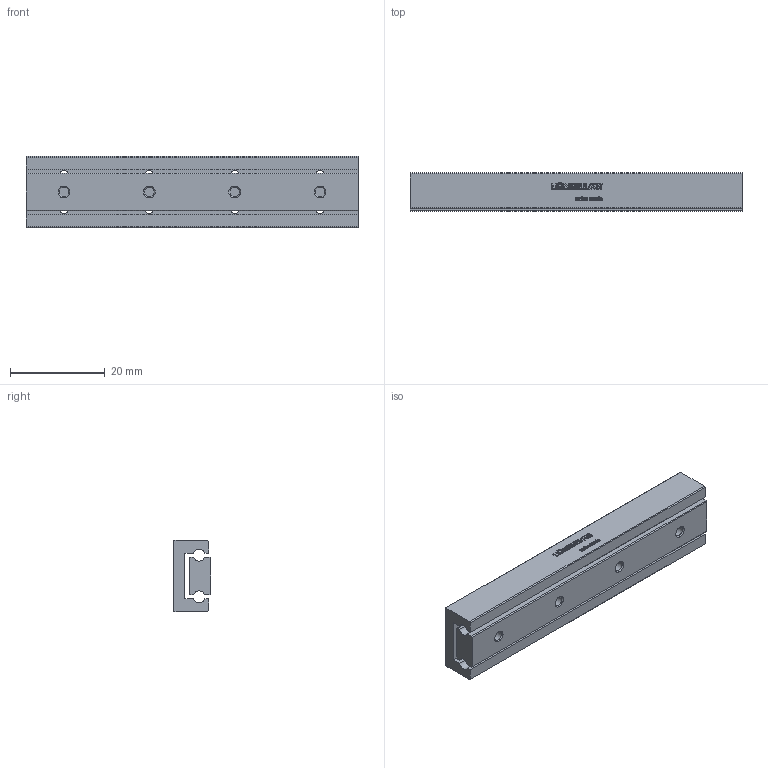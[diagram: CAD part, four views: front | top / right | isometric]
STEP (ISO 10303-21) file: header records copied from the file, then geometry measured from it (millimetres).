
FILE_DESCRIPTION(/* description */ ('STEP AP214'),/* implementation_level */ '2;1');
FILE_NAME(/* name */ 'NDN 2-70.60(0)',/* time_stamp */ '2025-04-16T17:13:02+02:00',/* author */ ('License CC BY-ND 4.0'),/* organization */ ('CADENAS'),/* preprocessor_version */ 'ST-DEVELOPER v19.3',/* originating_system */ 'PARTsolutions',/* authorisation */ ' ');
FILE_SCHEMA (('AUTOMOTIVE_DESIGN {1 0 10303 214 3 1 1}'));
Length unit declared in the file: millimetre
Products named in the file (3): NDN 2-70.60(0); NDN 2-70.60_1; NDN 2-70.60_2
Assembly tree (2 placements, depth 2):
  NDN 2-70.60(0)
    NDN 2-70.60_1
    NDN 2-70.60_2
Bounding box: 70 x 8 x 15 mm (x, y, z)
Volume: 6485.6 mm3; surface area: 6103.8 mm2
Topology: 2 solids, 2 shells, 525 faces, 1466 edges, 972 vertices
Faces by surface type: cylinder 308, plane 201, cone 16
Full cylindrical faces by diameter (mm): 2.013 x12
Entity records: 17087 total; most frequent: DIRECTION 3126, CARTESIAN_POINT 2938, ORIENTED_EDGE 2876, EDGE_CURVE 1438, AXIS2_PLACEMENT_3D 1160, VERTEX_POINT 972, LINE 806, VECTOR 806
